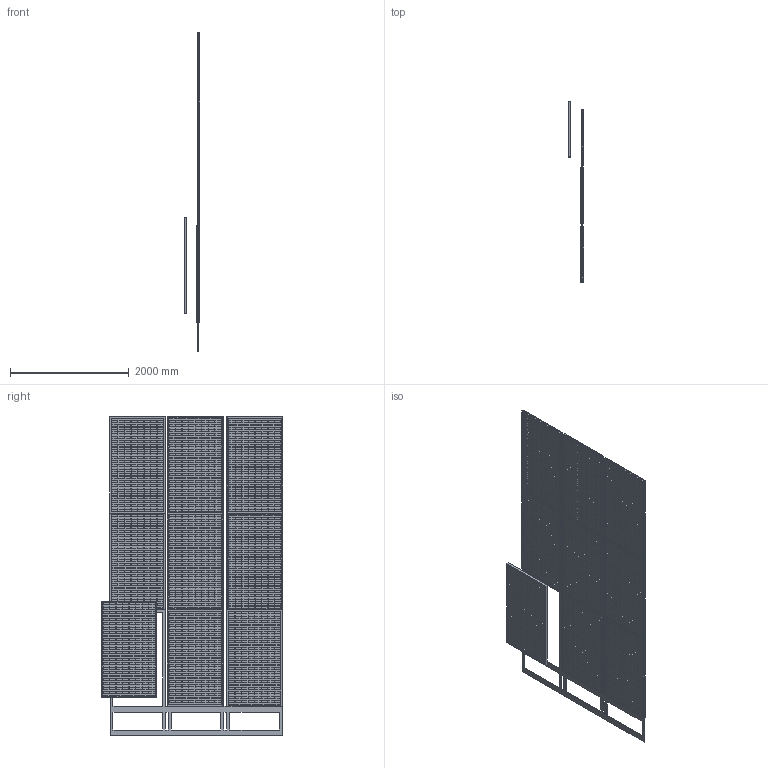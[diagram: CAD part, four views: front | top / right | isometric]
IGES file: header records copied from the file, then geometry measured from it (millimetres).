
Global section: file name: solar panel array ; native system: unknown; preprocessor: unknown; author: igauravwadhwa; organization: unknown; date: 20180606.141706; units: millimetre
Bounding box: 257.41 x 3048.75 x 5381 mm (x, y, z)
Volume: 548141153.4 mm3; surface area: 41726261.2 mm2
Topology: 19 solids, 19 shells, 16396 faces, 49020 edges, 32680 vertices
Faces by surface type: bspline 16396
